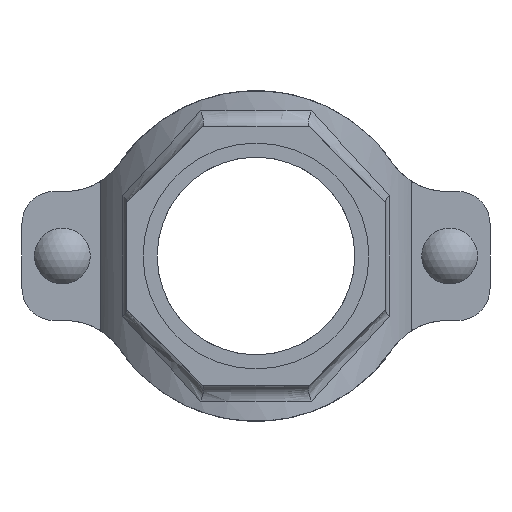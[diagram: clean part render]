
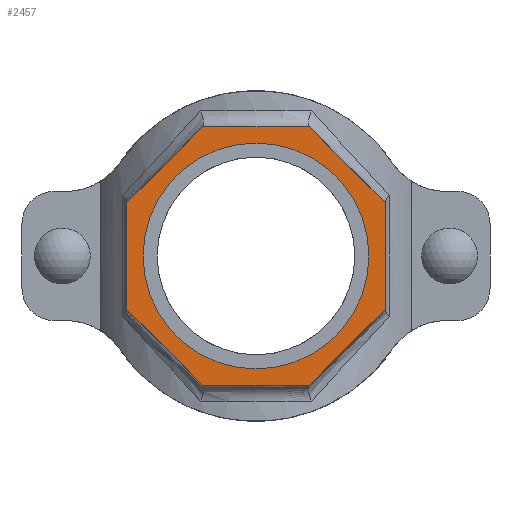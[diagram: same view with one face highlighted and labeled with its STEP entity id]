
A CAD part, front view. The second image highlights one B-rep face of the part: STEP entity #2457.
In plain terms, the highlighted planar face has unit normal (0, -1, 0) as drawn and (0, 1, 0) by its records, which use the part's own axes.
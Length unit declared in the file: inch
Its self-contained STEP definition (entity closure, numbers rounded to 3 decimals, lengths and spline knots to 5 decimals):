
#178=FACE_BOUND('',#441,.T.);
#293=FACE_OUTER_BOUND('',#440,.T.);
#440=EDGE_LOOP('',(#2058,#2059,#2060,#2061,#2062,#2063,#2064,#2065));
#441=EDGE_LOOP('',(#2066));
#576=LINE('',#4675,#758);
#579=LINE('',#4680,#761);
#581=LINE('',#4684,#763);
#583=LINE('',#4688,#765);
#617=LINE('',#5055,#799);
#619=LINE('',#5059,#801);
#621=LINE('',#5063,#803);
#623=LINE('',#5066,#805);
#758=VECTOR('',#3180,0.3937);
#761=VECTOR('',#3185,0.3937);
#763=VECTOR('',#3189,0.3937);
#765=VECTOR('',#3193,0.3937);
#799=VECTOR('',#3307,0.3937);
#801=VECTOR('',#3311,0.3937);
#803=VECTOR('',#3315,0.3937);
#805=VECTOR('',#3319,0.3937);
#887=CIRCLE('',#2710,1.75);
#1065=VERTEX_POINT('',#4672);
#1066=VERTEX_POINT('',#4674);
#1067=VERTEX_POINT('',#4678);
#1068=VERTEX_POINT('',#4682);
#1069=VERTEX_POINT('',#4686);
#1096=VERTEX_POINT('',#4904);
#1120=VERTEX_POINT('',#5054);
#1121=VERTEX_POINT('',#5058);
#1122=VERTEX_POINT('',#5062);
#1366=EDGE_CURVE('',#1066,#1065,#576,.T.);
#1369=EDGE_CURVE('',#1065,#1067,#579,.T.);
#1371=EDGE_CURVE('',#1067,#1068,#581,.T.);
#1373=EDGE_CURVE('',#1068,#1069,#583,.T.);
#1409=EDGE_CURVE('',#1096,#1096,#887,.T.);
#1441=EDGE_CURVE('',#1120,#1066,#617,.T.);
#1443=EDGE_CURVE('',#1121,#1120,#619,.T.);
#1445=EDGE_CURVE('',#1122,#1121,#621,.T.);
#1447=EDGE_CURVE('',#1069,#1122,#623,.T.);
#2058=ORIENTED_EDGE('',*,*,#1447,.T.);
#2059=ORIENTED_EDGE('',*,*,#1445,.T.);
#2060=ORIENTED_EDGE('',*,*,#1443,.T.);
#2061=ORIENTED_EDGE('',*,*,#1441,.T.);
#2062=ORIENTED_EDGE('',*,*,#1366,.T.);
#2063=ORIENTED_EDGE('',*,*,#1369,.T.);
#2064=ORIENTED_EDGE('',*,*,#1371,.T.);
#2065=ORIENTED_EDGE('',*,*,#1373,.T.);
#2066=ORIENTED_EDGE('',*,*,#1409,.T.);
#2206=PLANE('',#2733);
#2457=ADVANCED_FACE('',(#293,#178),#2206,.T.);
#2710=AXIS2_PLACEMENT_3D('',#4905,#3253,#3254);
#2733=AXIS2_PLACEMENT_3D('',#5067,#3320,#3321);
#3180=DIRECTION('',(0.,0.,1.));
#3185=DIRECTION('',(0.707,0.,0.707));
#3189=DIRECTION('',(1.,0.,0.));
#3193=DIRECTION('',(0.707,0.,-0.707));
#3253=DIRECTION('center_axis',(0.,-1.,0.));
#3254=DIRECTION('ref_axis',(-1.,0.,0.));
#3307=DIRECTION('',(-0.707,0.,0.707));
#3311=DIRECTION('',(-1.,0.,0.));
#3315=DIRECTION('',(-0.707,0.,-0.707));
#3319=DIRECTION('',(0.,0.,-1.));
#3320=DIRECTION('center_axis',(0.,1.,0.));
#3321=DIRECTION('ref_axis',(0.,0.,1.));
#4672=CARTESIAN_POINT('',(-2.,4.5,0.82843));
#4674=CARTESIAN_POINT('',(-2.,4.5,-0.82843));
#4675=CARTESIAN_POINT('',(-2.,4.5,0.82843));
#4678=CARTESIAN_POINT('',(-0.82843,4.5,2.));
#4680=CARTESIAN_POINT('',(-0.82843,4.5,2.));
#4682=CARTESIAN_POINT('',(0.82843,4.5,2.));
#4684=CARTESIAN_POINT('',(0.82843,4.5,2.));
#4686=CARTESIAN_POINT('',(2.,4.5,0.82843));
#4688=CARTESIAN_POINT('',(2.,4.5,0.82843));
#4904=CARTESIAN_POINT('',(1.75,4.5,0.));
#4905=CARTESIAN_POINT('Origin',(0.,4.5,0.));
#5054=CARTESIAN_POINT('',(-0.82843,4.5,-2.));
#5055=CARTESIAN_POINT('',(-2.,4.5,-0.82843));
#5058=CARTESIAN_POINT('',(0.82843,4.5,-2.));
#5059=CARTESIAN_POINT('',(-0.82843,4.5,-2.));
#5062=CARTESIAN_POINT('',(2.,4.5,-0.82843));
#5063=CARTESIAN_POINT('',(0.82843,4.5,-2.));
#5066=CARTESIAN_POINT('',(2.,4.5,-0.82843));
#5067=CARTESIAN_POINT('Origin',(0.,4.5,0.));
